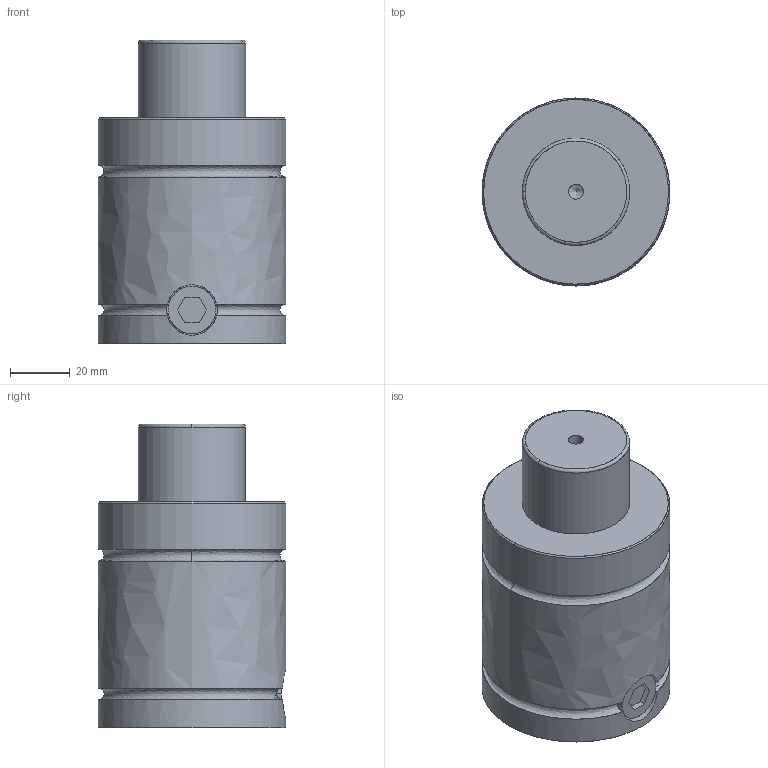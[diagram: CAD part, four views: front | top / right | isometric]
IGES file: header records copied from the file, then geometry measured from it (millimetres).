
Start section: VISI Layer Mapping Iges    VISI  0      LAYER_EMPTY  1      wwww  7      W_PD700  8      S_PD700  10     W_PD1000  11     S_PD1000  13     W_PD2000  14     S_PD2000  16     W_PD3000  17     S_PD3000  19     W_PD4000  20     S_PD4000  22     W_PD7000  23     S_PD7000  28     W_350  29     MS-350  30     MC-350  31     MP-350  32     MB-350  33     MH-350  34     MK-350  35     MPL-350  39     W_500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
Global section: file name: E:\だ錶臢\だ錶臢3D\SYLINDER\PT Series\PT1500\PT1500\PT1500-25.igs; native system: VISI 16.0; preprocessor: 2.0; author: 11; organization: 0; date: 500.; units: mil
Bounding box: 63 x 63 x 102 mm (x, y, z)
Surface area: 26924.9 mm2 (no closed solid volume)
Topology: 0 solids, 0 shells, 33 faces, 476 edges, 450 vertices
Faces by surface type: bspline 33
